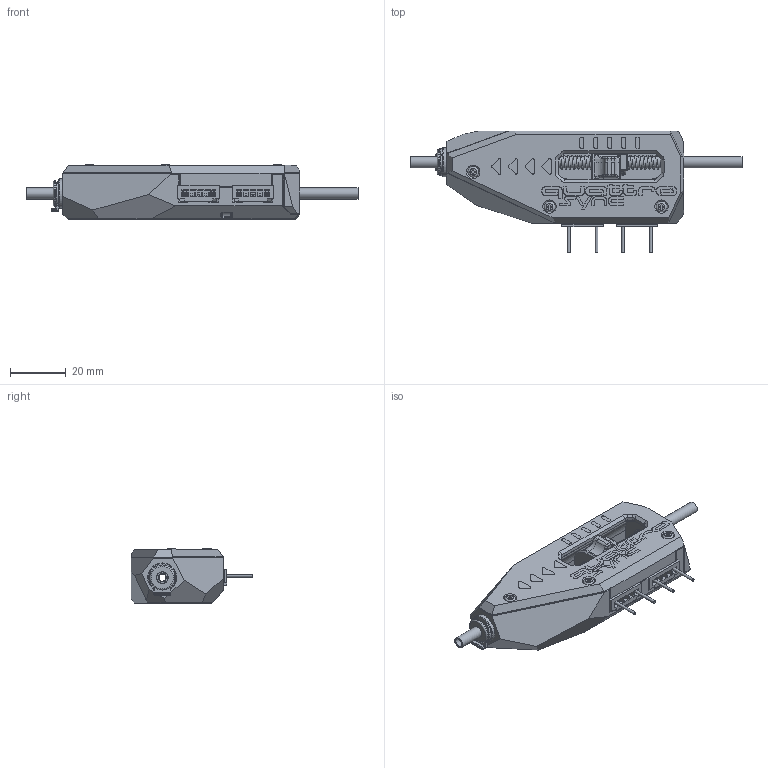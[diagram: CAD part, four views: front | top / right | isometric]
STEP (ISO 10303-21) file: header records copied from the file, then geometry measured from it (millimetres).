
FILE_DESCRIPTION(/* description */ (''),/* implementation_level */ '2;1');
FILE_NAME(/* name */ 'QuattroSync v20.step',/* time_stamp */ '2025-06-06T15:07:45-03:00',/* author */ (''),/* organization */ (''),/* preprocessor_version */ 'ST-DEVELOPER v20.1',/* originating_system */ 'Autodesk Translation Framework v14.10.0.0',/* authorisation */ '');
FILE_SCHEMA (('AUTOMOTIVE_DESIGN { 1 0 10303 214 3 1 1 }'));
Products named in the file (39): QuattroSync; QS_hw; D2F-L Microswitch; ECAS Bowden Collet; D2F-L Microswitch_1; Switch Body; Lever; Contacts; Plunger; JST-XH 5P; JST-XH - Crimped (3); Crimped Wire (4); JST-XH - Crimped (3) (1); Crimped Wire (4) (1); JST-XH 5P_1; JST-XH - Crimped (3)_1; Crimped Wire (4)_1; Insulation (4); Conductor (4); JST-XH - Crimped (3) (1)_1; Crimped Wire (4) (1)_1; Insulation (4) (1); Conductor (4) (1); ECAS Bowden Collet_1; Plunger (1); Collet Body; Rubber Seal; Seal Retainer; Grab Ring; ECAS Collet Clip v1; Component29; PTFE; pan head tapping screw_am_PHT 2x13x12.2-type I-D-N; PTFE (1); base; lid; [a]_slider; inlet; lid_text_mmu
Assembly tree (55 placements, depth 6):
  QuattroSync
    QS_hw
      D2F-L Microswitch
        Switch Body
        Lever
        Contacts
        Plunger
      ECAS Bowden Collet
        Plunger (1)
        Collet Body
        Rubber Seal
        Seal Retainer
        Grab Ring
        ECAS Collet Clip v1
      D2F-L Microswitch_1
        Switch Body
        Lever
        Contacts
        Plunger
      JST-XH 5P
        JST-XH - Crimped (3)
          Crimped Wire (4)
            Insulation (4)
            Conductor (4)
        JST-XH - Crimped (3) (1)
          Crimped Wire (4) (1)
            Insulation (4) (1)
            Conductor (4) (1)
      JST-XH 5P_1
        JST-XH - Crimped (3)_1
          Crimped Wire (4)_1
            Insulation (4)
            Conductor (4)
        JST-XH - Crimped (3) (1)_1
          Crimped Wire (4) (1)_1
            Insulation (4) (1)
            Conductor (4) (1)
      ECAS Bowden Collet_1
        Plunger (1)
        Collet Body
        Rubber Seal
        Seal Retainer
        Grab Ring
        ECAS Collet Clip v1
      Component29  x2
      PTFE
      pan head tapping screw_am_PHT 2x13x12.2-type I-D-N  x3
      PTFE (1)
    base
    lid
    [a]_slider
    inlet
    lid_text_mmu
Bounding box: 119.2 x 43.74 x 19.5 mm (x, y, z)
Volume: 37100 mm3; surface area: 28387.4 mm2
Topology: 74 solids, 74 shells, 4202 faces, 11315 edges, 7308 vertices
Faces by surface type: plane 2066, cylinder 926, bspline 898, cone 170, torus 134, sphere 8
Full cylindrical faces by diameter (mm): 1 x4, 1.9 x11, 2 x5, 2.2 x3, 3 x2, 4 x12, 4.4 x2, 5.5 x6, 5.6 x1, 6 x4, 6.119 x2, 6.5 x4, 6.8 x2, 7.7 x2, 8 x8, 8.3 x1, 8.47 x2, 9 x2, 10.45 x2
Entity records: 126006 total; most frequent: CARTESIAN_POINT 41023, ORIENTED_EDGE 19160, DIRECTION 14950, EDGE_CURVE 9580, VERTEX_POINT 6199, LINE 5924, VECTOR 5924, AXIS2_PLACEMENT_3D 4513
